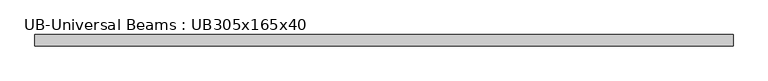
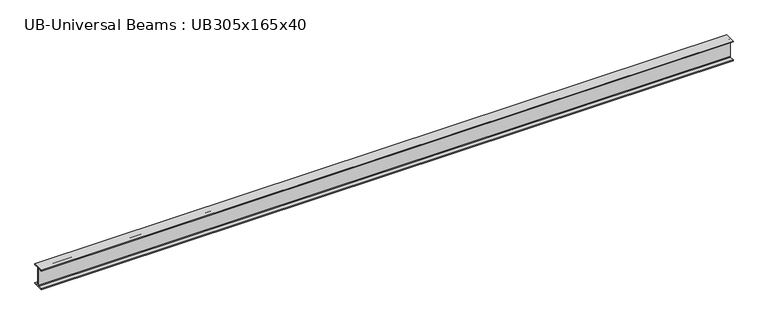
"""IFC4 building model written with IfcOpenShell, lengths in millimetres: beam geometry, UB-Universal Beams : UB305x165x40."""

from ifc_helpers import new_model, si_unit, point, frame, frame_2d, origin, place, context, project, spatial, polyline, circle_curve, trimmed, segment, composite_curve, outline, extrude, source, transform, mapped, element, save


def ub_universal_beams_ub305x165x40_98ae4895(model_context):
    return source(origin(), model_context, "Body", "SweptSolid", [
        extrude(outline(composite_curve([segment(polyline([(82.5, -141.5), (82.5, -151.7), (-82.5, -151.7), (-82.5, -141.5), (-11.9, -141.5)]), True, "CONTINUOUS"), segment(trimmed(circle_curve(frame_2d((-11.9, -132.6)), 8.9), [point((-11.9, -141.5))], [point((-3.0, -132.6))], True, "CARTESIAN"), True, "CONTINUOUS"), segment(polyline([(-3.0, -132.6), (-3.0, 132.6)]), True, "CONTINUOUS"), segment(trimmed(circle_curve(frame_2d((-11.9, 132.6)), 8.9), [point((-3.0, 132.6))], [point((-11.9, 141.5))], True, "CARTESIAN"), True, "CONTINUOUS"), segment(polyline([(-11.9, 141.5), (-82.5, 141.5), (-82.5, 151.7), (82.5, 151.7), (82.5, 141.5), (11.9, 141.5)]), True, "CONTINUOUS"), segment(trimmed(circle_curve(frame_2d((11.9, 132.6)), 8.9), [point((11.9, 141.5))], [point((3.0, 132.6))], True, "CARTESIAN"), True, "CONTINUOUS"), segment(polyline([(3.0, 132.6), (3.0, -132.6)]), True, "CONTINUOUS"), segment(trimmed(circle_curve(frame_2d((11.9, -132.6)), 8.9), [point((3.0, -132.6))], [point((11.9, -141.5))], True, "CARTESIAN"), True, "CONTINUOUS"), segment(polyline([(11.9, -141.5), (82.5, -141.5)]), True, "CONTINUOUS")], self_intersect=False)), frame((-5117.95, 0.0, 0.0), z_axis=(1.0, 0.0, 0.0), x_axis=(0.0, 1.0, 0.0)), (0.0, 0.0, 1.0), 10294.3),
    ])


if __name__ == "__main__":
    model = new_model("IFC4")
    model_context = context("Model", 3, world=origin())
    ifc_project = project(units=[si_unit("LENGTHUNIT", "METRE", prefix="MILLI")], contexts=[model_context])
    site = spatial("IfcSite", under=ifc_project)
    building = spatial("IfcBuilding", under=site)
    placement = place(None, origin())
    ub_universal_beams_ub305x165x40_shape = ub_universal_beams_ub305x165x40_98ae4895(model_context)
    element("IfcBeam", 1, ObjectType="UB-Universal Beams : UB305x165x40", at=placement, inside=building, context=model_context, shape_type="MappedRepresentation", body=[
        mapped(ub_universal_beams_ub305x165x40_shape, transform((0.0, 0.0, 0.0), x_axis=(1.0, 0.0, 0.0), y_axis=(0.0, 1.0, 0.0), z_axis=(0.0, 0.0, 1.0))),
    ])
    save(model, "model.ifc")
